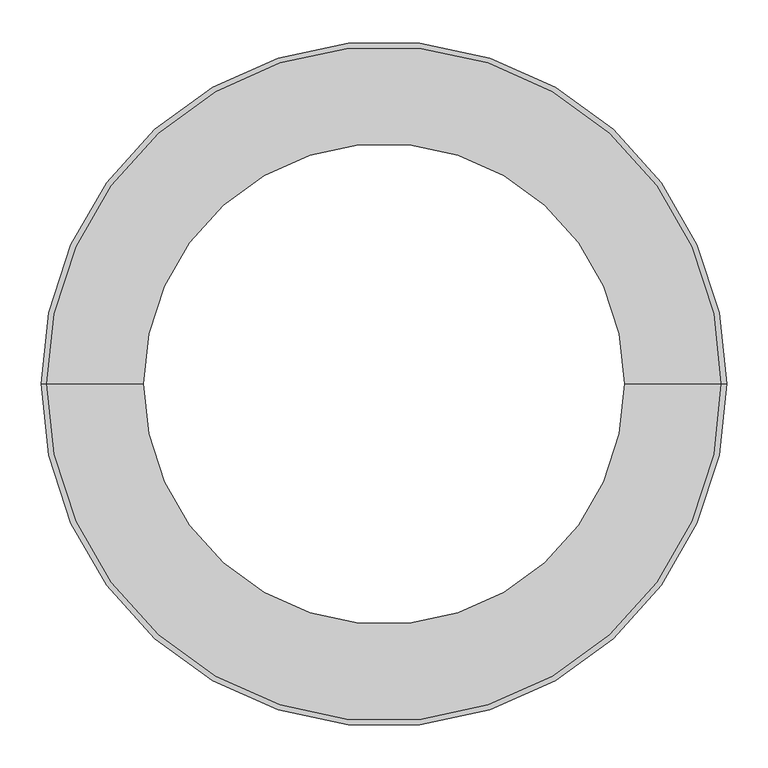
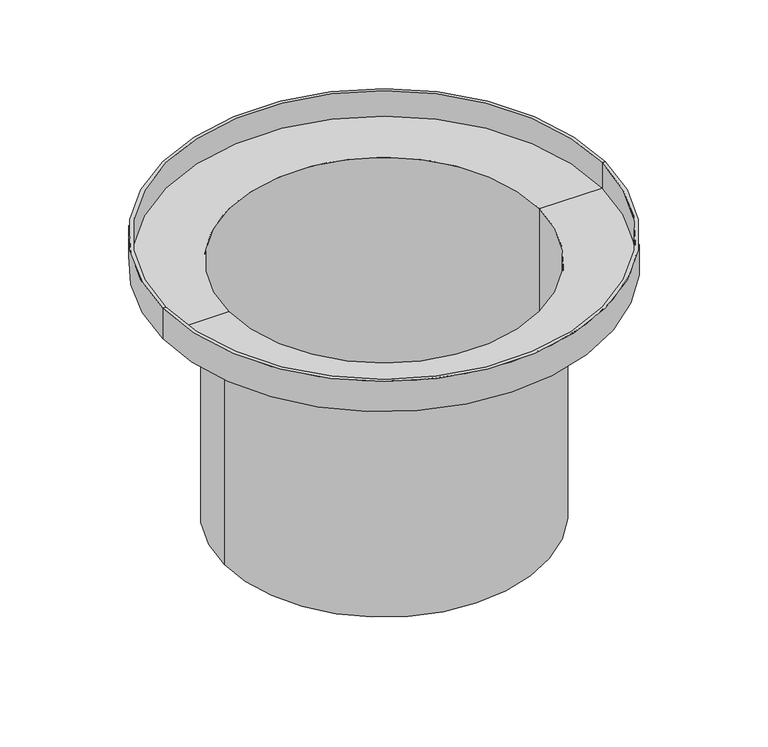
"""IFC4 building model written with IfcOpenShell, lengths in millimetres: pipe fitting geometry, Z_PIF_UN_Q-Bic_Plus_Telescopic_Adapter_Wavin_(nested) : Tegra600 Telescop.Adapter A/B."""

from ifc_helpers import new_model, si_unit, frame, origin, origin_with_axes, place, context, project, spatial, polyline, circle_curve, source, transform, mapped, element, save
from ifc_brep_helpers import plane_surface, cylinder_surface, revolved_surface, advanced_brep


def pipe_fitting_ed6f3102(model_context):
    return source(origin(), model_context, "Body", "AdvancedBrep", [
        advanced_brep(
        [(-408.3, 0.0, 0.0), (408.3, 0.0, 0.0), (414.5, 0.0, 0.0), (-414.5, 0.0, 0.0), (-408.3, 0.0, -50.0), (408.3, 0.0, -50.0), (-291.0, 0.0, -50.0), (291.0, 0.0, -50.0), (-291.0, 0.0, -548.0), (291.0, 0.0, -548.0), (-299.0, 0.0, -548.0), (299.0, 0.0, -548.0), (-299.0, 0.0, -60.0), (299.0, 0.0, -60.0), (-414.5, 0.0, -60.0), (414.5, 0.0, -60.0)],
        [
            (0, 1, circle_curve(frame((0.0, 0.0, 0.0), z_axis=(0.0, 0.0, -1.0), x_axis=(1.0, 0.0, 0.0)), 408.3)),
            (1, 2),
            (2, 3, circle_curve(origin_with_axes(), 414.5)),
            (3, 0),
            (1, 0, circle_curve(frame((0.0, 0.0, 0.0), z_axis=(0.0, 0.0, -1.0), x_axis=(1.0, 0.0, 0.0)), 408.3)),
            (3, 2, circle_curve(origin_with_axes(), 414.5)),
            (4, 5, circle_curve(frame((0.0, 0.0, -50.0), z_axis=(0.0, 0.0, -1.0), x_axis=(1.0, 0.0, 0.0)), 408.3)),
            (5, 1),
            (0, 4),
            (5, 4, circle_curve(frame((0.0, 0.0, -50.0), z_axis=(0.0, 0.0, -1.0), x_axis=(1.0, 0.0, 0.0)), 408.3)),
            (6, 7, circle_curve(frame((0.0, 0.0, -50.0), z_axis=(0.0, 0.0, -1.0), x_axis=(1.0, 0.0, 0.0)), 291.0)),
            (7, 5),
            (4, 6),
            (7, 6, circle_curve(frame((0.0, 0.0, -50.0), z_axis=(0.0, 0.0, -1.0), x_axis=(1.0, 0.0, 0.0)), 291.0)),
            (8, 9, circle_curve(frame((0.0, 0.0, -548.0), z_axis=(0.0, 0.0, -1.0), x_axis=(1.0, 0.0, 0.0)), 291.0)),
            (9, 7),
            (6, 8),
            (9, 8, circle_curve(frame((0.0, 0.0, -548.0), z_axis=(0.0, 0.0, -1.0), x_axis=(1.0, 0.0, 0.0)), 291.0)),
            (10, 11, circle_curve(frame((0.0, 0.0, -548.0), z_axis=(0.0, 0.0, -1.0), x_axis=(1.0, 0.0, 0.0)), 299.0)),
            (11, 9),
            (8, 10),
            (11, 10, circle_curve(frame((0.0, 0.0, -548.0), z_axis=(0.0, 0.0, -1.0), x_axis=(1.0, 0.0, 0.0)), 299.0)),
            (12, 13, circle_curve(frame((0.0, 0.0, -60.0), z_axis=(0.0, 0.0, -1.0), x_axis=(1.0, 0.0, 0.0)), 299.0)),
            (13, 11),
            (10, 12),
            (13, 12, circle_curve(frame((0.0, 0.0, -60.0), z_axis=(0.0, 0.0, -1.0), x_axis=(1.0, 0.0, 0.0)), 299.0)),
            (14, 15, circle_curve(frame((0.0, 0.0, -60.0), z_axis=(0.0, 0.0, -1.0), x_axis=(1.0, 0.0, 0.0)), 414.5)),
            (15, 13),
            (12, 14),
            (15, 14, circle_curve(frame((0.0, 0.0, -60.0), z_axis=(0.0, 0.0, -1.0), x_axis=(1.0, 0.0, 0.0)), 414.5)),
            (2, 15),
            (14, 3),
        ],
        [
            plane_surface(origin_with_axes()),
            revolved_surface(polyline([(408.3, 0.0, 0.0), (408.3, 0.0, -50.0)]), (0.0, 0.0, 50.0), (0.0, 0.0, 1.0)),
            plane_surface(frame((0.0, 0.0, -50.0), z_axis=(0.0, 0.0, 1.0), x_axis=(1.0, 0.0, 0.0))),
            revolved_surface(polyline([(291.0, 0.0, -50.0), (291.0, 0.0, -548.0)]), (0.0, 0.0, 50.0), (0.0, 0.0, 1.0)),
            plane_surface(frame((0.0, 0.0, -548.0), z_axis=(0.0, 0.0, -1.0), x_axis=(1.0, 0.0, 0.0))),
            cylinder_surface(frame((0.0, 0.0, 50.0), z_axis=(0.0, 0.0, 1.0), x_axis=(1.0, 0.0, 0.0)), 299.0),
            plane_surface(frame((0.0, 0.0, -60.0), z_axis=(0.0, 0.0, -1.0), x_axis=(1.0, 0.0, 0.0))),
            cylinder_surface(frame((0.0, 0.0, 50.0), z_axis=(0.0, 0.0, 1.0), x_axis=(1.0, 0.0, 0.0)), 414.5),
        ],
        [
            (0, [[1, 2, 3, 4]]),
            (0, [[5, -4, 6, -2]]),
            (1, [[7, 8, -1, 9]]),
            (1, [[10, -9, -5, -8]]),
            (2, [[11, 12, -7, 13]]),
            (2, [[14, -13, -10, -12]]),
            (3, [[15, 16, -11, 17]]),
            (3, [[18, -17, -14, -16]]),
            (4, [[19, 20, -15, 21]]),
            (4, [[22, -21, -18, -20]]),
            (5, [[23, 24, -19, 25]]),
            (5, [[26, -25, -22, -24]]),
            (6, [[27, 28, -23, 29]]),
            (6, [[30, -29, -26, -28]]),
            (7, [[-3, 31, -27, 32]]),
            (7, [[-6, -32, -30, -31]]),
        ],
    ),
    ])


if __name__ == "__main__":
    model = new_model("IFC4")
    model_context = context("Model", 3, world=origin())
    ifc_project = project(units=[si_unit("LENGTHUNIT", "METRE", prefix="MILLI")], contexts=[model_context])
    site = spatial("IfcSite", under=ifc_project)
    building = spatial("IfcBuilding", under=site)
    placement = place(None, origin())
    pipe_fitting_shape = pipe_fitting_ed6f3102(model_context)
    element("IfcPipeFitting", 1, ObjectType="Z_PIF_UN_Q-Bic_Plus_Telescopic_Adapter_Wavin_(nested) : Tegra600 Telescop.Adapter A/B", at=placement, inside=building, context=model_context, shape_type="MappedRepresentation", body=[
        mapped(pipe_fitting_shape, transform((0.0, 0.0, 0.0), x_axis=(1.0, 0.0, 0.0), y_axis=(0.0, 1.0, 0.0), z_axis=(0.0, 0.0, 1.0))),
    ])
    save(model, "model.ifc")
